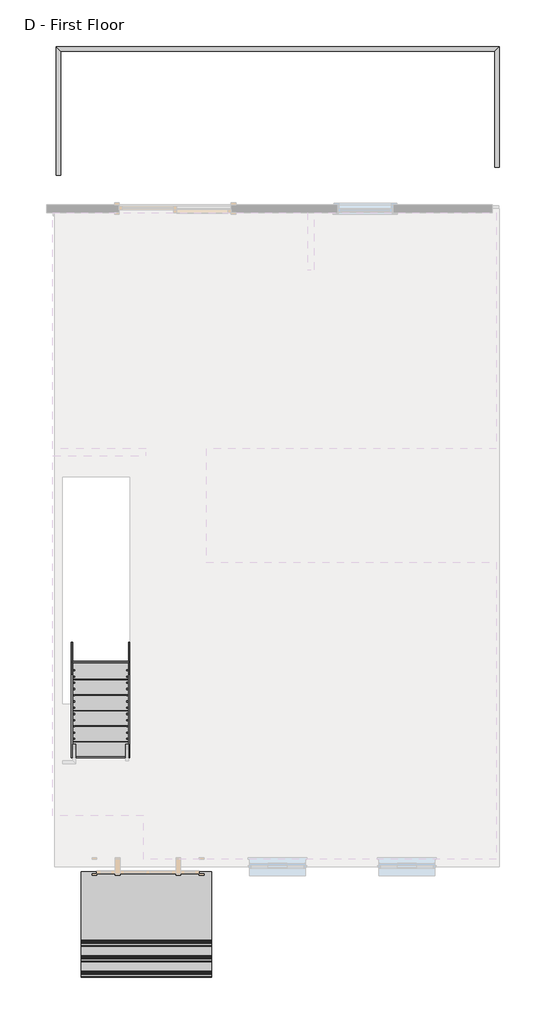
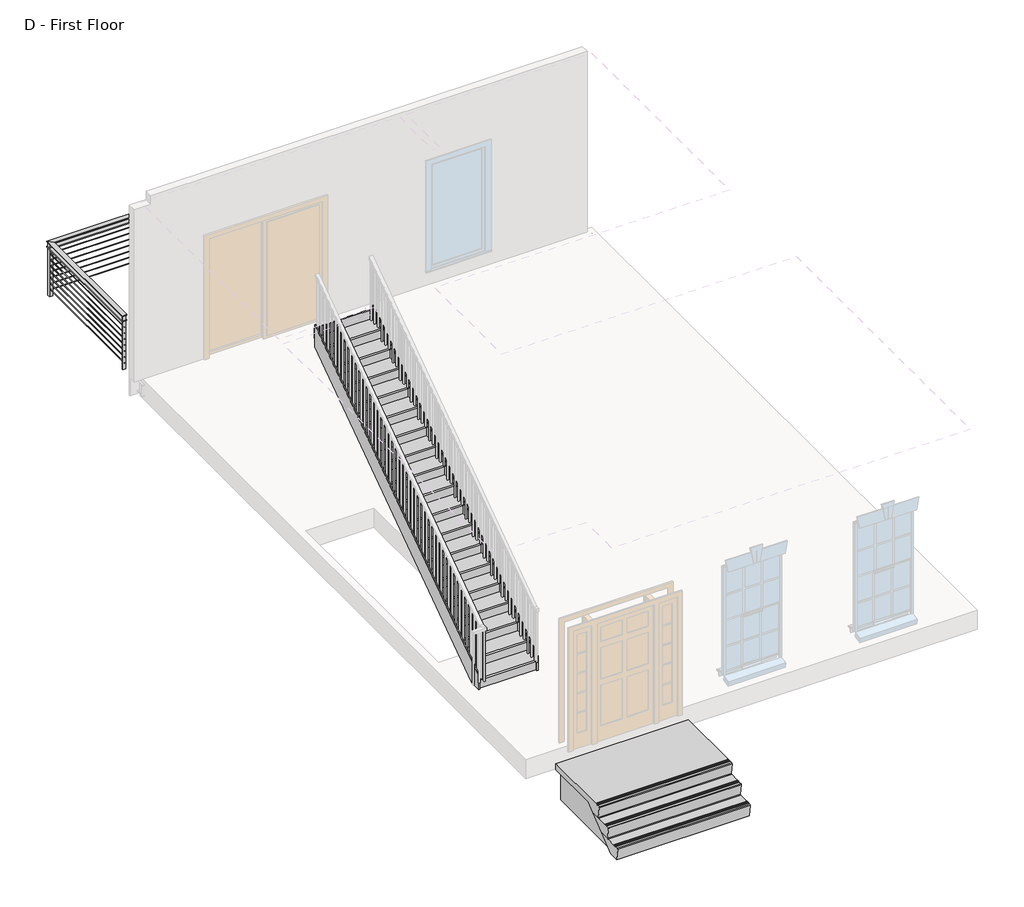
# One storey, part 2 of 2: 2 members, 1 proxy, 1 railing, 1 stair flight.
"""IFC4 building model written with IfcOpenShell, lengths in millimetres."""

from ifc_helpers import new_model, si_unit, frame, origin, place, context, project, spatial, polyline, circle_curve, ellipse_curve, outline, extrude, faceted_brep, transform, mapped, element, save
from ifc_brep_helpers import plane_surface, cylinder_surface, advanced_brep
from components import precast_porch_and_stair_11277_precast_porch_and_stair_11277_55bbf17a, stair_flight_d34ab9c1

model = new_model("IFC4")

# Units and contexts
model_context = context("Model", 3, world=origin())
ifc_project = project(units=[si_unit("LENGTHUNIT", "METRE", prefix="MILLI")], contexts=[model_context])

# Site, building, storey
site = spatial("IfcSite", under=ifc_project)
building = spatial("IfcBuilding", under=site)
storey = spatial("IfcBuildingStorey", under=building, Name="D - First Floor", Elevation=1828.8)

# Proxy
placement = place(None, origin())
precast_porch_and_stair_11277_precast_porch_and_stair_11277_shape = precast_porch_and_stair_11277_precast_porch_and_stair_11277_55bbf17a(model_context)
element("IfcBuildingElementProxy", 1, Name="Precast_Porch_and_Stair_11277 : Precast_Porch_and_Stair_11277", ObjectType="Precast_Porch_and_Stair_11277 : Precast_Porch_and_Stair_11277", at=placement, inside=storey, context=model_context, shape_type="MappedRepresentation", body=[
    mapped(precast_porch_and_stair_11277_precast_porch_and_stair_11277_shape, transform((12096.098124, -7321.3819462, 1066.8), x_axis=(0.0, -1.0, 0.0), y_axis=(1.0, 0.0, 0.0), z_axis=(0.0, 0.0, 1.0))),
])

# Members
element("IfcMember", 2, ObjectType="Stringer - Paint - 3/4\" Width", at=placement, inside=storey, context=model_context, shape_type="SweptSolid", body=[
    extrude(outline(polyline([(-5459.0539462, 1847.85), (-5459.0539462, 2085.7557145), (-887.0539462, 5280.139925), (-887.0539462, 4908.3139533), (-5267.3790017, 1847.85), (-5459.0539462, 1847.85)])), frame((10870.0870514, 0.0, 0.0), z_axis=(1.0, 0.0, 0.0), x_axis=(0.0, 1.0, 0.0)), (0.0, 0.0, 1.0), 19.05),
])
element("IfcMember", 3, ObjectType="Stringer - Paint - 3/4\" Width", at=placement, inside=storey, context=model_context, shape_type="SweptSolid", body=[
    extrude(outline(polyline([(-5459.0539462, 1847.85), (-5459.0539462, 2085.7557145), (-887.0539462, 5280.139925), (-887.0539462, 4908.3139533), (-5267.3790017, 1847.85), (-5459.0539462, 1847.85)])), frame((11803.5370514, 0.0, 0.0), z_axis=(1.0, 0.0, 0.0), x_axis=(0.0, 1.0, 0.0)), (0.0, 0.0, 1.0), 19.05),
])

# Railing
element("IfcRailing", 4, ObjectType="36\"", at=placement, inside=storey, context=model_context, shape_type="SolidModel", body=[
    faceted_brep([(17781.8052966, 4173.8960538, 2527.3), (17781.8052966, 4173.8960538, 2514.6), (17858.0052966, 4173.8960538, 2514.6), (17858.0052966, 4173.8960538, 2527.3), (17858.0052966, 6142.3960538, 2514.6), (17858.0052966, 6142.3960538, 2527.3), (17781.8052966, 6066.1960538, 2527.3), (10619.0052966, 6142.3960538, 2514.6), (10619.0052966, 6142.3960538, 2527.3), (10695.2052966, 6066.1960538, 2527.3), (10695.2052966, 4040.5460538, 2527.3), (10619.0052966, 4040.5460538, 2527.3), (10619.0052966, 4040.5460538, 2514.6), (10695.2052966, 4040.5460538, 2514.6), (17781.8052966, 6066.1960538, 2514.6), (10695.2052966, 6066.1960538, 2514.6)], [[[0, 1, 2, 3]], [[3, 2, 4, 5]], [[0, 3, 5, 6]], [[5, 4, 7, 8]], [[6, 5, 8, 9]], [[10, 11, 12, 13]], [[8, 7, 12, 11]], [[9, 8, 11, 10]], [[1, 0, 6, 14]], [[2, 1, 14, 4]], [[14, 6, 9, 15]], [[4, 14, 15, 7]], [[15, 9, 10, 13]], [[7, 15, 13, 12]]]),
    faceted_brep([(17858.0052966, 4173.8960538, 2438.4), (17781.8052966, 4173.8960538, 2438.4), (17781.8052966, 4173.8960538, 2425.7), (17858.0052966, 4173.8960538, 2425.7), (17858.0052966, 6142.3960538, 2438.4), (17781.8052966, 6066.1960538, 2438.4), (17781.8052966, 6066.1960538, 2425.7), (10619.0052966, 6142.3960538, 2438.4), (10695.2052966, 6066.1960538, 2438.4), (10695.2052966, 6066.1960538, 2425.7), (10619.0052966, 4040.5460538, 2438.4), (10619.0052966, 4040.5460538, 2425.7), (10695.2052966, 4040.5460538, 2425.7), (10695.2052966, 4040.5460538, 2438.4), (17858.0052966, 6142.3960538, 2425.7), (10619.0052966, 6142.3960538, 2425.7)], [[[0, 1, 2, 3]], [[1, 0, 4, 5]], [[2, 1, 5, 6]], [[5, 4, 7, 8]], [[6, 5, 8, 9]], [[10, 11, 12, 13]], [[8, 7, 10, 13]], [[9, 8, 13, 12]], [[3, 2, 6, 14]], [[0, 3, 14, 4]], [[14, 6, 9, 15]], [[4, 14, 15, 7]], [[15, 9, 12, 11]], [[7, 15, 11, 10]]]),
    advanced_brep(
    [(17816.7302966, 4173.8960538, 2324.1), (17823.0802966, 4173.8960538, 2324.1), (10660.2802966, 4040.5460538, 2324.1), (10653.9302966, 4040.5460538, 2324.1), (17816.7302966, 6101.1210538, 2324.1), (17823.0802966, 6107.4710538, 2324.1), (10660.2802966, 6101.1210538, 2324.1), (10653.9302966, 6107.4710538, 2324.1)],
    [
        (0, 1, circle_curve(frame((17819.9052966, 4173.8960538, 2324.1), z_axis=(0.0, -1.0, 0.0), x_axis=(1.0, 0.0, 0.0)), 3.175)),
        (1, 0, circle_curve(frame((17819.9052966, 4173.8960538, 2324.1), z_axis=(0.0, -1.0, 0.0), x_axis=(1.0, 0.0, 0.0)), 3.175)),
        (2, 3, circle_curve(frame((10657.1052966, 4040.5460538, 2324.1), z_axis=(0.0, -1.0, 0.0), x_axis=(-1.0, 0.0, 0.0)), 3.175)),
        (3, 2, circle_curve(frame((10657.1052966, 4040.5460538, 2324.1), z_axis=(0.0, -1.0, 0.0), x_axis=(-1.0, 0.0, 0.0)), 3.175)),
        (0, 4),
        (4, 5, ellipse_curve(frame((17819.9052966, 6104.2960538, 2324.1), z_axis=(0.7071067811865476, -0.7071067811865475, 0.0), x_axis=(-0.7071067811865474, -0.7071067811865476, 0.0)), 4.4901281, 3.175)),
        (5, 1),
        (5, 4, ellipse_curve(frame((17819.9052966, 6104.2960538, 2324.1), z_axis=(0.7071067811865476, -0.7071067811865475, 0.0), x_axis=(-0.7071067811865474, -0.7071067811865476, 0.0)), 4.4901281, 3.175)),
        (4, 6),
        (6, 7, ellipse_curve(frame((10657.1052966, 6104.2960538, 2324.1), z_axis=(0.7071067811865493, 0.7071067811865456, 0.0), x_axis=(0.7071067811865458, -0.7071067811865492, 0.0)), 4.4901281, 3.175)),
        (7, 5),
        (7, 6, ellipse_curve(frame((10657.1052966, 6104.2960538, 2324.1), z_axis=(0.7071067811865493, 0.7071067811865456, 0.0), x_axis=(0.7071067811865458, -0.7071067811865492, 0.0)), 4.4901281, 3.175)),
        (6, 2),
        (3, 7),
    ],
    [
        plane_surface(frame((17819.9052966, 4173.8960538, 2324.1), z_axis=(0.0, -1.0, 0.0), x_axis=(0.0, 0.0, 1.0))),
        plane_surface(frame((10657.1052966, 4040.5460538, 2324.1), z_axis=(0.0, -1.0, 0.0), x_axis=(0.0, 0.0, -1.0))),
        cylinder_surface(frame((17819.9052966, 4173.8960538, 2324.1), z_axis=(0.0, -1.0, 0.0), x_axis=(1.0, 0.0, 0.0)), 3.175),
        cylinder_surface(frame((17819.9052966, 6104.2960538, 2324.1), z_axis=(1.0, 0.0, 0.0), x_axis=(0.0, 1.0, 0.0)), 3.175),
        cylinder_surface(frame((10657.1052966, 6104.2960538, 2324.1), z_axis=(0.0, 1.0, 0.0), x_axis=(-1.0, 0.0, 0.0)), 3.175),
    ],
    [
        (0, [[1, 2]]),
        (1, [[3, 4]]),
        (2, [[-1, 5, 6, 7]]),
        (2, [[-2, -7, 8, -5]]),
        (3, [[-6, 9, 10, 11]]),
        (3, [[-8, -11, 12, -9]]),
        (4, [[-10, 13, -4, 14]]),
        (4, [[-12, -14, -3, -13]]),
    ],
),
    advanced_brep(
    [(17816.7302966, 4173.8960538, 2222.5), (17823.0802966, 4173.8960538, 2222.5), (17816.7302966, 6101.1210538, 2222.5), (17823.0802966, 6107.4710538, 2222.5), (10660.2802966, 6101.1210538, 2222.5), (10653.9302966, 6107.4710538, 2222.5), (10660.2802966, 4040.5460538, 2222.5), (10653.9302966, 4040.5460538, 2222.5)],
    [
        (0, 1, circle_curve(frame((17819.9052966, 4173.8960538, 2222.5), z_axis=(0.0, -1.0, 0.0), x_axis=(1.0, 0.0, 0.0)), 3.175)),
        (1, 0, circle_curve(frame((17819.9052966, 4173.8960538, 2222.5), z_axis=(0.0, -1.0, 0.0), x_axis=(1.0, 0.0, 0.0)), 3.175)),
        (0, 2),
        (2, 3, ellipse_curve(frame((17819.9052966, 6104.2960538, 2222.5), z_axis=(0.7071067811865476, -0.7071067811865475, 0.0), x_axis=(-0.7071067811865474, -0.7071067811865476, 0.0)), 4.4901281, 3.175)),
        (3, 1),
        (3, 2, ellipse_curve(frame((17819.9052966, 6104.2960538, 2222.5), z_axis=(0.7071067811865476, -0.7071067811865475, 0.0), x_axis=(-0.7071067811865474, -0.7071067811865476, 0.0)), 4.4901281, 3.175)),
        (2, 4),
        (4, 5, ellipse_curve(frame((10657.1052966, 6104.2960538, 2222.5), z_axis=(0.7071067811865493, 0.7071067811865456, 0.0), x_axis=(0.7071067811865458, -0.7071067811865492, 0.0)), 4.4901281, 3.175)),
        (5, 3),
        (5, 4, ellipse_curve(frame((10657.1052966, 6104.2960538, 2222.5), z_axis=(0.7071067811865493, 0.7071067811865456, 0.0), x_axis=(0.7071067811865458, -0.7071067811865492, 0.0)), 4.4901281, 3.175)),
        (6, 7, circle_curve(frame((10657.1052966, 4040.5460538, 2222.5), z_axis=(0.0, -1.0, 0.0), x_axis=(-1.0, 0.0, 0.0)), 3.175)),
        (7, 6, circle_curve(frame((10657.1052966, 4040.5460538, 2222.5), z_axis=(0.0, -1.0, 0.0), x_axis=(-1.0, 0.0, 0.0)), 3.175)),
        (4, 6),
        (7, 5),
    ],
    [
        plane_surface(frame((17819.9052966, 4173.8960538, 2222.5), z_axis=(0.0, -1.0, 0.0), x_axis=(0.0, 0.0, 1.0))),
        cylinder_surface(frame((17819.9052966, 4173.8960538, 2222.5), z_axis=(0.0, -1.0, 0.0), x_axis=(1.0, 0.0, 0.0)), 3.175),
        cylinder_surface(frame((17819.9052966, 6104.2960538, 2222.5), z_axis=(1.0, 0.0, 0.0), x_axis=(0.0, 1.0, 0.0)), 3.175),
        plane_surface(frame((10657.1052966, 4040.5460538, 2222.5), z_axis=(0.0, -1.0, 0.0), x_axis=(0.0, 0.0, -1.0))),
        cylinder_surface(frame((10657.1052966, 6104.2960538, 2222.5), z_axis=(0.0, 1.0, 0.0), x_axis=(-1.0, 0.0, 0.0)), 3.175),
    ],
    [
        (0, [[1, 2]]),
        (1, [[-1, 3, 4, 5]]),
        (1, [[-2, -5, 6, -3]]),
        (2, [[-4, 7, 8, 9]]),
        (2, [[-6, -9, 10, -7]]),
        (3, [[11, 12]]),
        (4, [[-8, 13, -12, 14]]),
        (4, [[-10, -14, -11, -13]]),
    ],
),
    advanced_brep(
    [(17816.7302966, 4173.8960538, 2120.9), (17823.0802966, 4173.8960538, 2120.9), (17816.7302966, 6101.1210538, 2120.9), (17823.0802966, 6107.4710538, 2120.9), (10660.2802966, 6101.1210538, 2120.9), (10653.9302966, 6107.4710538, 2120.9), (10660.2802966, 4040.5460538, 2120.9), (10653.9302966, 4040.5460538, 2120.9)],
    [
        (0, 1, circle_curve(frame((17819.9052966, 4173.8960538, 2120.9), z_axis=(0.0, -1.0, 0.0), x_axis=(1.0, 0.0, 0.0)), 3.175)),
        (1, 0, circle_curve(frame((17819.9052966, 4173.8960538, 2120.9), z_axis=(0.0, -1.0, 0.0), x_axis=(1.0, 0.0, 0.0)), 3.175)),
        (0, 2),
        (2, 3, ellipse_curve(frame((17819.9052966, 6104.2960538, 2120.9), z_axis=(0.7071067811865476, -0.7071067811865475, 0.0), x_axis=(-0.7071067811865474, -0.7071067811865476, 0.0)), 4.4901281, 3.175)),
        (3, 1),
        (3, 2, ellipse_curve(frame((17819.9052966, 6104.2960538, 2120.9), z_axis=(0.7071067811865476, -0.7071067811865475, 0.0), x_axis=(-0.7071067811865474, -0.7071067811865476, 0.0)), 4.4901281, 3.175)),
        (2, 4),
        (4, 5, ellipse_curve(frame((10657.1052966, 6104.2960538, 2120.9), z_axis=(0.7071067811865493, 0.7071067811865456, 0.0), x_axis=(0.7071067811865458, -0.7071067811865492, 0.0)), 4.4901281, 3.175)),
        (5, 3),
        (5, 4, ellipse_curve(frame((10657.1052966, 6104.2960538, 2120.9), z_axis=(0.7071067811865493, 0.7071067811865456, 0.0), x_axis=(0.7071067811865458, -0.7071067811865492, 0.0)), 4.4901281, 3.175)),
        (6, 7, circle_curve(frame((10657.1052966, 4040.5460538, 2120.9), z_axis=(0.0, -1.0, 0.0), x_axis=(-1.0, 0.0, 0.0)), 3.175)),
        (7, 6, circle_curve(frame((10657.1052966, 4040.5460538, 2120.9), z_axis=(0.0, -1.0, 0.0), x_axis=(-1.0, 0.0, 0.0)), 3.175)),
        (4, 6),
        (7, 5),
    ],
    [
        plane_surface(frame((17819.9052966, 4173.8960538, 2120.9), z_axis=(0.0, -1.0, 0.0), x_axis=(0.0, 0.0, 1.0))),
        cylinder_surface(frame((17819.9052966, 4173.8960538, 2120.9), z_axis=(0.0, -1.0, 0.0), x_axis=(1.0, 0.0, 0.0)), 3.175),
        cylinder_surface(frame((17819.9052966, 6104.2960538, 2120.9), z_axis=(1.0, 0.0, 0.0), x_axis=(0.0, 1.0, 0.0)), 3.175),
        plane_surface(frame((10657.1052966, 4040.5460538, 2120.9), z_axis=(0.0, -1.0, 0.0), x_axis=(0.0, 0.0, -1.0))),
        cylinder_surface(frame((10657.1052966, 6104.2960538, 2120.9), z_axis=(0.0, 1.0, 0.0), x_axis=(-1.0, 0.0, 0.0)), 3.175),
    ],
    [
        (0, [[1, 2]]),
        (1, [[-1, 3, 4, 5]]),
        (1, [[-2, -5, 6, -3]]),
        (2, [[-4, 7, 8, 9]]),
        (2, [[-6, -9, 10, -7]]),
        (3, [[11, 12]]),
        (4, [[-8, 13, -12, 14]]),
        (4, [[-10, -14, -11, -13]]),
    ],
),
    advanced_brep(
    [(17816.7302966, 4173.8960538, 2019.3), (17823.0802966, 4173.8960538, 2019.3), (17816.7302966, 6101.1210538, 2019.3), (17823.0802966, 6107.4710538, 2019.3), (10660.2802966, 6101.1210538, 2019.3), (10653.9302966, 6107.4710538, 2019.3), (10660.2802966, 4040.5460538, 2019.3), (10653.9302966, 4040.5460538, 2019.3)],
    [
        (0, 1, circle_curve(frame((17819.9052966, 4173.8960538, 2019.3), z_axis=(0.0, -1.0, 0.0), x_axis=(1.0, 0.0, 0.0)), 3.175)),
        (1, 0, circle_curve(frame((17819.9052966, 4173.8960538, 2019.3), z_axis=(0.0, -1.0, 0.0), x_axis=(1.0, 0.0, 0.0)), 3.175)),
        (0, 2),
        (2, 3, ellipse_curve(frame((17819.9052966, 6104.2960538, 2019.3), z_axis=(0.7071067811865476, -0.7071067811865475, 0.0), x_axis=(-0.7071067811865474, -0.7071067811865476, 0.0)), 4.4901281, 3.175)),
        (3, 1),
        (3, 2, ellipse_curve(frame((17819.9052966, 6104.2960538, 2019.3), z_axis=(0.7071067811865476, -0.7071067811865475, 0.0), x_axis=(-0.7071067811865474, -0.7071067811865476, 0.0)), 4.4901281, 3.175)),
        (2, 4),
        (4, 5, ellipse_curve(frame((10657.1052966, 6104.2960538, 2019.3), z_axis=(0.7071067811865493, 0.7071067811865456, 0.0), x_axis=(0.7071067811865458, -0.7071067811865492, 0.0)), 4.4901281, 3.175)),
        (5, 3),
        (5, 4, ellipse_curve(frame((10657.1052966, 6104.2960538, 2019.3), z_axis=(0.7071067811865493, 0.7071067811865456, 0.0), x_axis=(0.7071067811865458, -0.7071067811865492, 0.0)), 4.4901281, 3.175)),
        (6, 7, circle_curve(frame((10657.1052966, 4040.5460538, 2019.3), z_axis=(0.0, -1.0, 0.0), x_axis=(-1.0, 0.0, 0.0)), 3.175)),
        (7, 6, circle_curve(frame((10657.1052966, 4040.5460538, 2019.3), z_axis=(0.0, -1.0, 0.0), x_axis=(-1.0, 0.0, 0.0)), 3.175)),
        (4, 6),
        (7, 5),
    ],
    [
        plane_surface(frame((17819.9052966, 4173.8960538, 2019.3), z_axis=(0.0, -1.0, 0.0), x_axis=(0.0, 0.0, 1.0))),
        cylinder_surface(frame((17819.9052966, 4173.8960538, 2019.3), z_axis=(0.0, -1.0, 0.0), x_axis=(1.0, 0.0, 0.0)), 3.175),
        cylinder_surface(frame((17819.9052966, 6104.2960538, 2019.3), z_axis=(1.0, 0.0, 0.0), x_axis=(0.0, 1.0, 0.0)), 3.175),
        plane_surface(frame((10657.1052966, 4040.5460538, 2019.3), z_axis=(0.0, -1.0, 0.0), x_axis=(0.0, 0.0, -1.0))),
        cylinder_surface(frame((10657.1052966, 6104.2960538, 2019.3), z_axis=(0.0, 1.0, 0.0), x_axis=(-1.0, 0.0, 0.0)), 3.175),
    ],
    [
        (0, [[1, 2]]),
        (1, [[-1, 3, 4, 5]]),
        (1, [[-2, -5, 6, -3]]),
        (2, [[-4, 7, 8, 9]]),
        (2, [[-6, -9, 10, -7]]),
        (3, [[11, 12]]),
        (4, [[-8, 13, -12, 14]]),
        (4, [[-10, -14, -11, -13]]),
    ],
),
    advanced_brep(
    [(17816.7302966, 4173.8960538, 1917.7), (17823.0802966, 4173.8960538, 1917.7), (17816.7302966, 6101.1210538, 1917.7), (17823.0802966, 6107.4710538, 1917.7), (10660.2802966, 6101.1210538, 1917.7), (10653.9302966, 6107.4710538, 1917.7), (10660.2802966, 4040.5460538, 1917.7), (10653.9302966, 4040.5460538, 1917.7)],
    [
        (0, 1, circle_curve(frame((17819.9052966, 4173.8960538, 1917.7), z_axis=(0.0, -1.0, 0.0), x_axis=(1.0, 0.0, 0.0)), 3.175)),
        (1, 0, circle_curve(frame((17819.9052966, 4173.8960538, 1917.7), z_axis=(0.0, -1.0, 0.0), x_axis=(1.0, 0.0, 0.0)), 3.175)),
        (0, 2),
        (2, 3, ellipse_curve(frame((17819.9052966, 6104.2960538, 1917.7), z_axis=(0.7071067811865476, -0.7071067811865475, 0.0), x_axis=(-0.7071067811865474, -0.7071067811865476, 0.0)), 4.4901281, 3.175)),
        (3, 1),
        (3, 2, ellipse_curve(frame((17819.9052966, 6104.2960538, 1917.7), z_axis=(0.7071067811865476, -0.7071067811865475, 0.0), x_axis=(-0.7071067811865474, -0.7071067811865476, 0.0)), 4.4901281, 3.175)),
        (2, 4),
        (4, 5, ellipse_curve(frame((10657.1052966, 6104.2960538, 1917.7), z_axis=(0.7071067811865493, 0.7071067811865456, 0.0), x_axis=(0.7071067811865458, -0.7071067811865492, 0.0)), 4.4901281, 3.175)),
        (5, 3),
        (5, 4, ellipse_curve(frame((10657.1052966, 6104.2960538, 1917.7), z_axis=(0.7071067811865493, 0.7071067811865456, 0.0), x_axis=(0.7071067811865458, -0.7071067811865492, 0.0)), 4.4901281, 3.175)),
        (6, 7, circle_curve(frame((10657.1052966, 4040.5460538, 1917.7), z_axis=(0.0, -1.0, 0.0), x_axis=(-1.0, 0.0, 0.0)), 3.175)),
        (7, 6, circle_curve(frame((10657.1052966, 4040.5460538, 1917.7), z_axis=(0.0, -1.0, 0.0), x_axis=(-1.0, 0.0, 0.0)), 3.175)),
        (4, 6),
        (7, 5),
    ],
    [
        plane_surface(frame((17819.9052966, 4173.8960538, 1917.7), z_axis=(0.0, -1.0, 0.0), x_axis=(0.0, 0.0, 1.0))),
        cylinder_surface(frame((17819.9052966, 4173.8960538, 1917.7), z_axis=(0.0, -1.0, 0.0), x_axis=(1.0, 0.0, 0.0)), 3.175),
        cylinder_surface(frame((17819.9052966, 6104.2960538, 1917.7), z_axis=(1.0, 0.0, 0.0), x_axis=(0.0, 1.0, 0.0)), 3.175),
        plane_surface(frame((10657.1052966, 4040.5460538, 1917.7), z_axis=(0.0, -1.0, 0.0), x_axis=(0.0, 0.0, -1.0))),
        cylinder_surface(frame((10657.1052966, 6104.2960538, 1917.7), z_axis=(0.0, 1.0, 0.0), x_axis=(-1.0, 0.0, 0.0)), 3.175),
    ],
    [
        (0, [[1, 2]]),
        (1, [[-1, 3, 4, 5]]),
        (1, [[-2, -5, 6, -3]]),
        (2, [[-4, 7, 8, 9]]),
        (2, [[-6, -9, 10, -7]]),
        (3, [[11, 12]]),
        (4, [[-8, 13, -12, 14]]),
        (4, [[-10, -14, -11, -13]]),
    ],
),
    advanced_brep(
    [(17816.7302966, 4173.8960538, 1816.1), (17823.0802966, 4173.8960538, 1816.1), (17816.7302966, 6101.1210538, 1816.1), (17823.0802966, 6107.4710538, 1816.1), (10660.2802966, 6101.1210538, 1816.1), (10653.9302966, 6107.4710538, 1816.1), (10660.2802966, 4040.5460538, 1816.1), (10653.9302966, 4040.5460538, 1816.1)],
    [
        (0, 1, circle_curve(frame((17819.9052966, 4173.8960538, 1816.1), z_axis=(0.0, -1.0, 0.0), x_axis=(1.0, 0.0, 0.0)), 3.175)),
        (1, 0, circle_curve(frame((17819.9052966, 4173.8960538, 1816.1), z_axis=(0.0, -1.0, 0.0), x_axis=(1.0, 0.0, 0.0)), 3.175)),
        (0, 2),
        (2, 3, ellipse_curve(frame((17819.9052966, 6104.2960538, 1816.1), z_axis=(0.7071067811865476, -0.7071067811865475, 0.0), x_axis=(-0.7071067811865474, -0.7071067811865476, 0.0)), 4.4901281, 3.175)),
        (3, 1),
        (3, 2, ellipse_curve(frame((17819.9052966, 6104.2960538, 1816.1), z_axis=(0.7071067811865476, -0.7071067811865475, 0.0), x_axis=(-0.7071067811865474, -0.7071067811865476, 0.0)), 4.4901281, 3.175)),
        (2, 4),
        (4, 5, ellipse_curve(frame((10657.1052966, 6104.2960538, 1816.1), z_axis=(0.7071067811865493, 0.7071067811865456, 0.0), x_axis=(0.7071067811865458, -0.7071067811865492, 0.0)), 4.4901281, 3.175)),
        (5, 3),
        (5, 4, ellipse_curve(frame((10657.1052966, 6104.2960538, 1816.1), z_axis=(0.7071067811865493, 0.7071067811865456, 0.0), x_axis=(0.7071067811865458, -0.7071067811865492, 0.0)), 4.4901281, 3.175)),
        (6, 7, circle_curve(frame((10657.1052966, 4040.5460538, 1816.1), z_axis=(0.0, -1.0, 0.0), x_axis=(-1.0, 0.0, 0.0)), 3.175)),
        (7, 6, circle_curve(frame((10657.1052966, 4040.5460538, 1816.1), z_axis=(0.0, -1.0, 0.0), x_axis=(-1.0, 0.0, 0.0)), 3.175)),
        (4, 6),
        (7, 5),
    ],
    [
        plane_surface(frame((17819.9052966, 4173.8960538, 1816.1), z_axis=(0.0, -1.0, 0.0), x_axis=(0.0, 0.0, 1.0))),
        cylinder_surface(frame((17819.9052966, 4173.8960538, 1816.1), z_axis=(0.0, -1.0, 0.0), x_axis=(1.0, 0.0, 0.0)), 3.175),
        cylinder_surface(frame((17819.9052966, 6104.2960538, 1816.1), z_axis=(1.0, 0.0, 0.0), x_axis=(0.0, 1.0, 0.0)), 3.175),
        plane_surface(frame((10657.1052966, 4040.5460538, 1816.1), z_axis=(0.0, -1.0, 0.0), x_axis=(0.0, 0.0, -1.0))),
        cylinder_surface(frame((10657.1052966, 6104.2960538, 1816.1), z_axis=(0.0, 1.0, 0.0), x_axis=(-1.0, 0.0, 0.0)), 3.175),
    ],
    [
        (0, [[1, 2]]),
        (1, [[-1, 3, 4, 5]]),
        (1, [[-2, -5, 6, -3]]),
        (2, [[-4, 7, 8, 9]]),
        (2, [[-6, -9, 10, -7]]),
        (3, [[11, 12]]),
        (4, [[-8, 13, -12, 14]]),
        (4, [[-10, -14, -11, -13]]),
    ],
),
    advanced_brep(
    [(17816.7302966, 4173.8960538, 1714.5), (17823.0802966, 4173.8960538, 1714.5), (17816.7302966, 6101.1210538, 1714.5), (17823.0802966, 6107.4710538, 1714.5), (10660.2802966, 6101.1210538, 1714.5), (10653.9302966, 6107.4710538, 1714.5), (10660.2802966, 4040.5460538, 1714.5), (10653.9302966, 4040.5460538, 1714.5)],
    [
        (0, 1, circle_curve(frame((17819.9052966, 4173.8960538, 1714.5), z_axis=(0.0, -1.0, 0.0), x_axis=(1.0, 0.0, 0.0)), 3.175)),
        (1, 0, circle_curve(frame((17819.9052966, 4173.8960538, 1714.5), z_axis=(0.0, -1.0, 0.0), x_axis=(1.0, 0.0, 0.0)), 3.175)),
        (0, 2),
        (2, 3, ellipse_curve(frame((17819.9052966, 6104.2960538, 1714.5), z_axis=(0.7071067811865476, -0.7071067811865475, 0.0), x_axis=(-0.7071067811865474, -0.7071067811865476, 0.0)), 4.4901281, 3.175)),
        (3, 1),
        (3, 2, ellipse_curve(frame((17819.9052966, 6104.2960538, 1714.5), z_axis=(0.7071067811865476, -0.7071067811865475, 0.0), x_axis=(-0.7071067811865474, -0.7071067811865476, 0.0)), 4.4901281, 3.175)),
        (2, 4),
        (4, 5, ellipse_curve(frame((10657.1052966, 6104.2960538, 1714.5), z_axis=(0.7071067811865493, 0.7071067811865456, 0.0), x_axis=(0.7071067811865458, -0.7071067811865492, 0.0)), 4.4901281, 3.175)),
        (5, 3),
        (5, 4, ellipse_curve(frame((10657.1052966, 6104.2960538, 1714.5), z_axis=(0.7071067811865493, 0.7071067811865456, 0.0), x_axis=(0.7071067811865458, -0.7071067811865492, 0.0)), 4.4901281, 3.175)),
        (6, 7, circle_curve(frame((10657.1052966, 4040.5460538, 1714.5), z_axis=(0.0, -1.0, 0.0), x_axis=(-1.0, 0.0, 0.0)), 3.175)),
        (7, 6, circle_curve(frame((10657.1052966, 4040.5460538, 1714.5), z_axis=(0.0, -1.0, 0.0), x_axis=(-1.0, 0.0, 0.0)), 3.175)),
        (4, 6),
        (7, 5),
    ],
    [
        plane_surface(frame((17819.9052966, 4173.8960538, 1714.5), z_axis=(0.0, -1.0, 0.0), x_axis=(0.0, 0.0, 1.0))),
        cylinder_surface(frame((17819.9052966, 4173.8960538, 1714.5), z_axis=(0.0, -1.0, 0.0), x_axis=(1.0, 0.0, 0.0)), 3.175),
        cylinder_surface(frame((17819.9052966, 6104.2960538, 1714.5), z_axis=(1.0, 0.0, 0.0), x_axis=(0.0, 1.0, 0.0)), 3.175),
        plane_surface(frame((10657.1052966, 4040.5460538, 1714.5), z_axis=(0.0, -1.0, 0.0), x_axis=(0.0, 0.0, -1.0))),
        cylinder_surface(frame((10657.1052966, 6104.2960538, 1714.5), z_axis=(0.0, 1.0, 0.0), x_axis=(-1.0, 0.0, 0.0)), 3.175),
    ],
    [
        (0, [[1, 2]]),
        (1, [[-1, 3, 4, 5]]),
        (1, [[-2, -5, 6, -3]]),
        (2, [[-4, 7, 8, 9]]),
        (2, [[-6, -9, 10, -7]]),
        (3, [[11, 12]]),
        (4, [[-8, 13, -12, 14]]),
        (4, [[-10, -14, -11, -13]]),
    ],
),
    extrude(outline(polyline([(12083.3152966, 6078.8960538), (12083.3152966, 6129.6960538), (12096.0152966, 6129.6960538), (12096.0152966, 6078.8960538), (12083.3152966, 6078.8960538)])), frame((0.0, 0.0, 1612.9), z_axis=(0.0, 0.0, 1.0), x_axis=(1.0, 0.0, 0.0)), (0.0, 0.0, 1.0), 812.8),
    extrude(outline(polyline([(12083.3152966, 6078.8960538), (12083.3152966, 6129.6960538), (12096.0152966, 6129.6960538), (12096.0152966, 6078.8960538), (12083.3152966, 6078.8960538)])), frame((0.0, 0.0, 2438.4), z_axis=(0.0, 0.0, 1.0), x_axis=(1.0, 0.0, 0.0)), (0.0, 0.0, 1.0), 76.2),
    extrude(outline(polyline([(13515.8752966, 6078.8960538), (13515.8752966, 6129.6960538), (13528.5752966, 6129.6960538), (13528.5752966, 6078.8960538), (13515.8752966, 6078.8960538)])), frame((0.0, 0.0, 1612.9), z_axis=(0.0, 0.0, 1.0), x_axis=(1.0, 0.0, 0.0)), (0.0, 0.0, 1.0), 812.8),
    extrude(outline(polyline([(13515.8752966, 6078.8960538), (13515.8752966, 6129.6960538), (13528.5752966, 6129.6960538), (13528.5752966, 6078.8960538), (13515.8752966, 6078.8960538)])), frame((0.0, 0.0, 2438.4), z_axis=(0.0, 0.0, 1.0), x_axis=(1.0, 0.0, 0.0)), (0.0, 0.0, 1.0), 76.2),
    extrude(outline(polyline([(14948.4352966, 6078.8960538), (14948.4352966, 6129.6960538), (14961.1352966, 6129.6960538), (14961.1352966, 6078.8960538), (14948.4352966, 6078.8960538)])), frame((0.0, 0.0, 1612.9), z_axis=(0.0, 0.0, 1.0), x_axis=(1.0, 0.0, 0.0)), (0.0, 0.0, 1.0), 812.8),
    extrude(outline(polyline([(14948.4352966, 6078.8960538), (14948.4352966, 6129.6960538), (14961.1352966, 6129.6960538), (14961.1352966, 6078.8960538), (14948.4352966, 6078.8960538)])), frame((0.0, 0.0, 2438.4), z_axis=(0.0, 0.0, 1.0), x_axis=(1.0, 0.0, 0.0)), (0.0, 0.0, 1.0), 76.2),
    extrude(outline(polyline([(16380.9952966, 6078.8960538), (16380.9952966, 6129.6960538), (16393.6952966, 6129.6960538), (16393.6952966, 6078.8960538), (16380.9952966, 6078.8960538)])), frame((0.0, 0.0, 1612.9), z_axis=(0.0, 0.0, 1.0), x_axis=(1.0, 0.0, 0.0)), (0.0, 0.0, 1.0), 812.8),
    extrude(outline(polyline([(16380.9952966, 6078.8960538), (16380.9952966, 6129.6960538), (16393.6952966, 6129.6960538), (16393.6952966, 6078.8960538), (16380.9952966, 6078.8960538)])), frame((0.0, 0.0, 2438.4), z_axis=(0.0, 0.0, 1.0), x_axis=(1.0, 0.0, 0.0)), (0.0, 0.0, 1.0), 76.2),
    extrude(outline(polyline([(10631.7052966, 6078.8960538), (10631.7052966, 6129.6960538), (10682.5052966, 6129.6960538), (10682.5052966, 6078.8960538), (10631.7052966, 6078.8960538)])), frame((0.0, 0.0, 1612.9), z_axis=(0.0, 0.0, 1.0), x_axis=(1.0, 0.0, 0.0)), (0.0, 0.0, 1.0), 812.8),
    extrude(outline(polyline([(10631.7052966, 6078.8960538), (10631.7052966, 6129.6960538), (10682.5052966, 6129.6960538), (10682.5052966, 6078.8960538), (10631.7052966, 6078.8960538)])), frame((0.0, 0.0, 2438.4), z_axis=(0.0, 0.0, 1.0), x_axis=(1.0, 0.0, 0.0)), (0.0, 0.0, 1.0), 76.2),
    extrude(outline(polyline([(17794.5052966, 6129.6960538), (17845.3052966, 6129.6960538), (17845.3052966, 6078.8960538), (17794.5052966, 6078.8960538), (17794.5052966, 6129.6960538)])), frame((0.0, 0.0, 1612.9), z_axis=(0.0, 0.0, 1.0), x_axis=(1.0, 0.0, 0.0)), (0.0, 0.0, 1.0), 812.8),
    extrude(outline(polyline([(17794.5052966, 6129.6960538), (17845.3052966, 6129.6960538), (17845.3052966, 6078.8960538), (17794.5052966, 6078.8960538), (17794.5052966, 6129.6960538)])), frame((0.0, 0.0, 2438.4), z_axis=(0.0, 0.0, 1.0), x_axis=(1.0, 0.0, 0.0)), (0.0, 0.0, 1.0), 76.2),
    extrude(outline(polyline([(10682.5052966, 4040.5460538), (10631.7052966, 4040.5460538), (10631.7052966, 4053.2460538), (10682.5052966, 4053.2460538), (10682.5052966, 4040.5460538)])), frame((0.0, 0.0, 1612.9), z_axis=(0.0, 0.0, 1.0), x_axis=(1.0, 0.0, 0.0)), (0.0, 0.0, 1.0), 812.8),
    extrude(outline(polyline([(10682.5052966, 4040.5460538), (10631.7052966, 4040.5460538), (10631.7052966, 4053.2460538), (10682.5052966, 4053.2460538), (10682.5052966, 4040.5460538)])), frame((0.0, 0.0, 2438.4), z_axis=(0.0, 0.0, 1.0), x_axis=(1.0, 0.0, 0.0)), (0.0, 0.0, 1.0), 76.2),
    extrude(outline(polyline([(17794.5052966, 4186.5960538), (17845.3052966, 4186.5960538), (17845.3052966, 4173.8960538), (17794.5052966, 4173.8960538), (17794.5052966, 4186.5960538)])), frame((0.0, 0.0, 1612.9), z_axis=(0.0, 0.0, 1.0), x_axis=(1.0, 0.0, 0.0)), (0.0, 0.0, 1.0), 812.8),
    extrude(outline(polyline([(17794.5052966, 4186.5960538), (17845.3052966, 4186.5960538), (17845.3052966, 4173.8960538), (17794.5052966, 4173.8960538), (17794.5052966, 4186.5960538)])), frame((0.0, 0.0, 2438.4), z_axis=(0.0, 0.0, 1.0), x_axis=(1.0, 0.0, 0.0)), (0.0, 0.0, 1.0), 76.2),
])

# Stair flight
stair_flight_shape = stair_flight_d34ab9c1(model_context)
element("IfcStairFlight", 5, ObjectType="Wood Steps with 1\" Front Nosing", at=placement, inside=storey, context=model_context, shape_type="MappedRepresentation", body=[
    mapped(stair_flight_shape, transform((0.0, 0.0, 0.0), x_axis=(1.0, 0.0, 0.0), y_axis=(0.0, 1.0, 0.0), z_axis=(0.0, 0.0, 1.0))),
])

save(model, "model.ifc")
